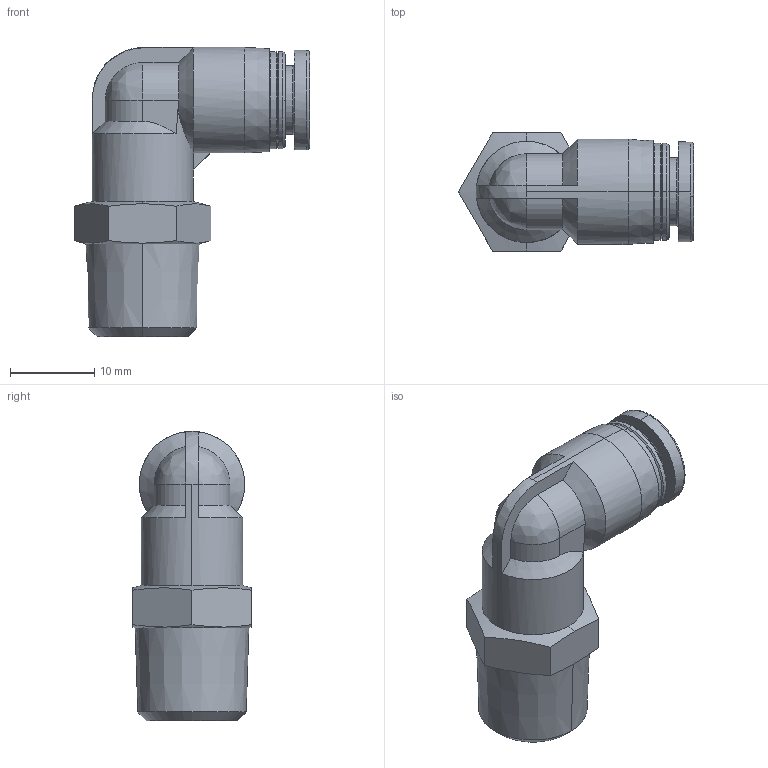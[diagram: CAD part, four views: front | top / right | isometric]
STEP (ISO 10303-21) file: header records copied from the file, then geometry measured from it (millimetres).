
FILE_DESCRIPTION (( 'STEP AP214' ), '1' );
FILE_NAME ('APL6-02.STEP', '2019-12-05T06:04:29', ( '微软用户' ), ( '微软中国' ), 'SwSTEP 2.0', 'SolidWorks 2016', '' );
FILE_SCHEMA (( 'AUTOMOTIVE_DESIGN' ));
Length unit declared in the file: millimetre
Products named in the file (1): APL6-02
Bounding box: 27.83 x 14 x 34.25 mm (x, y, z)
Volume: 5004 mm3; surface area: 2575.3 mm2
Topology: 1 solids, 1 shells, 73 faces, 177 edges, 110 vertices
Faces by surface type: cone 25, plane 21, cylinder 20, bspline 7
Entity records: 2534 total; most frequent: CARTESIAN_POINT 871, ORIENTED_EDGE 354, DIRECTION 328, EDGE_CURVE 177, AXIS2_PLACEMENT_3D 133, VERTEX_POINT 110, EDGE_LOOP 77, FACE_OUTER_BOUND 73
